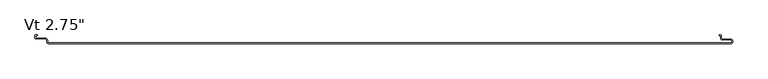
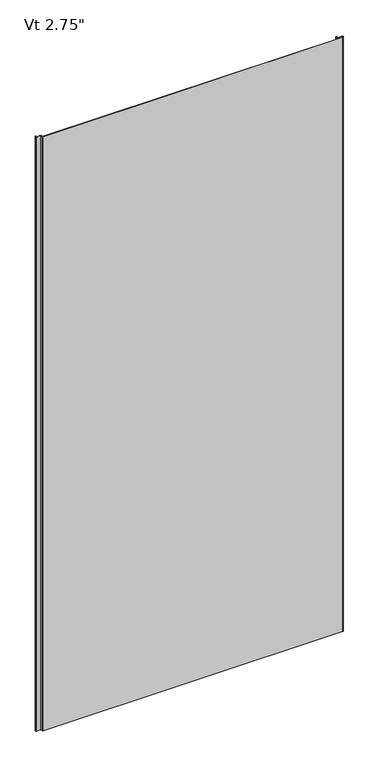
"""IFC4 building model written with IfcOpenShell, lengths in millimetres: plate geometry."""

import ifcopenshell
import ifcopenshell.guid

model = None  # the IFC model being written
_history = None  # IfcOwnerHistory: only IFC2X3 demands one
_inside = {}  # id of a spatial element -> (the spatial element, [elements in it])
_under = {}  # id of a project, library or spatial element -> (it, [spatial elements below it])
_declared = {}  # id of a project -> (the project, [libraries it declares])
_typed = {}  # id of a type object -> (the type object, [elements of that type])
_made_of = {}  # id of a material, layer set ... -> (it, [elements and type objects made of it])


def new_model(schema):
    """Start an empty IFC model of exactly this schema.

    Asked for "IFC4X3", IfcOpenShell would pick the latest addendum, in which some entities
    have other attributes; the version numbers below select the first issue.
    IFC2X3 requires an IfcOwnerHistory on every rooted entity: one is made here for all.
    """
    global model, _history
    if schema == "IFC4X3":
        model = ifcopenshell.file(schema_version=(4, 3, 0, 0))
    else:
        model = ifcopenshell.file(schema=schema)
    _inside.clear()
    _under.clear()
    _declared.clear()
    _typed.clear()
    _made_of.clear()
    _history = None
    if model.schema == "IFC2X3":
        org = make("IfcOrganization", Name="unknown")
        user = make(
            "IfcPersonAndOrganization",
            ThePerson=make("IfcPerson", FamilyName="unknown"),
            TheOrganization=org,
        )
        app = make(
            "IfcApplication",
            ApplicationDeveloper=org,
            Version="unknown",
            ApplicationFullName="unknown",
            ApplicationIdentifier="unknown",
        )
        _history = make(
            "IfcOwnerHistory",
            OwningUser=user,
            OwningApplication=app,
            ChangeAction="ADDED",
            CreationDate=0,
        )
    return model


def make(cls, **values):
    """One entity of the class cls with the attributes given. An attribute that is None is left unset."""
    return model.create_entity(
        cls, **{name: value for name, value in values.items() if value is not None}
    )


def rooted(cls, **values):
    """An entity with a GlobalId (a new one), such as an element, a storey or a relation."""
    return make(cls, GlobalId=ifcopenshell.guid.new(), OwnerHistory=_history, **values)


def si_unit(unit_type, name, prefix=None):
    """IfcSIUnit, for example si_unit("LENGTHUNIT", "METRE", prefix="MILLI")."""
    return make("IfcSIUnit", UnitType=unit_type, Prefix=prefix, Name=name)


def assignment(units):
    """IfcUnitAssignment: the units of a project."""
    return None if units is None else make("IfcUnitAssignment", Units=units)


def point(xyz):
    """IfcCartesianPoint."""
    return None if xyz is None else make("IfcCartesianPoint", Coordinates=xyz)


def direction(xyz):
    """IfcDirection."""
    return None if xyz is None else make("IfcDirection", DirectionRatios=xyz)


def frame(location, z_axis=None, x_axis=None):
    """IfcAxis2Placement3D, a coordinate frame: its origin and axes. An axis left out is left unset."""
    return make(
        "IfcAxis2Placement3D",
        Location=point(location),
        Axis=direction(z_axis),
        RefDirection=direction(x_axis),
    )


def origin():
    """The frame at (0, 0, 0) with its axes left unset."""
    return frame((0.0, 0.0, 0.0))


def place(relative_to, where):
    """IfcLocalPlacement: puts the frame where relative to a parent placement (None: the world)."""
    return make(
        "IfcLocalPlacement", PlacementRelTo=relative_to, RelativePlacement=where
    )


def context(
    kind, dimensions, precision=None, world=None, true_north=None, identifier=None
):
    """IfcGeometricRepresentationContext, for example the 3D "Model" context."""
    return make(
        "IfcGeometricRepresentationContext",
        ContextIdentifier=identifier,
        ContextType=kind,
        CoordinateSpaceDimension=dimensions,
        Precision=precision,
        WorldCoordinateSystem=world,
        TrueNorth=true_north,
    )


def project(units=None, contexts=None):
    """IfcProject with its units and contexts."""
    return rooted(
        "IfcProject",
        Name="project",
        RepresentationContexts=contexts,
        UnitsInContext=assignment(units),
    )


def spatial(cls, under=None, at=None, **own):
    """A site, building, storey or space (cls), placed at a placement, below another one or the project."""
    s = rooted(cls, ObjectPlacement=at, **own)
    if under is not None:
        _under.setdefault(under.id(), (under, []))[1].append(s)
    return s


def polyline(points):
    """IfcPolyline through the points."""
    return make("IfcPolyline", Points=[point(p) for p in points])


def circle_curve(where, radius):
    """IfcCircle in the frame where."""
    return make("IfcCircle", Position=where, Radius=radius)


def shape(context_of_items, identifier, shape_type, items):
    """IfcShapeRepresentation: the items that make up one representation, for example the "Body"."""
    return make(
        "IfcShapeRepresentation",
        ContextOfItems=context_of_items,
        RepresentationIdentifier=identifier,
        RepresentationType=shape_type,
        Items=items,
    )


def source(mapping_origin, context_of_items, identifier, shape_type, items):
    """IfcRepresentationMap: a shape defined once, which mapped items show again and again."""
    return make(
        "IfcRepresentationMap",
        MappingOrigin=mapping_origin,
        MappedRepresentation=shape(context_of_items, identifier, shape_type, items),
    )


def transform(
    local_origin,
    x_axis=None,
    y_axis=None,
    z_axis=None,
    scale=None,
    scale2=None,
    scale3=None,
    uniform=True,
):
    """IfcCartesianTransformationOperator3D, or its non-uniform kind. x_axis, y_axis, z_axis: its Axis1, 2, 3."""
    if uniform:
        return make(
            "IfcCartesianTransformationOperator3D",
            Axis1=direction(x_axis),
            Axis2=direction(y_axis),
            LocalOrigin=point(local_origin),
            Scale=scale,
            Axis3=direction(z_axis),
        )
    return make(
        "IfcCartesianTransformationOperator3DnonUniform",
        Axis1=direction(x_axis),
        Axis2=direction(y_axis),
        LocalOrigin=point(local_origin),
        Scale=scale,
        Axis3=direction(z_axis),
        Scale2=scale2,
        Scale3=scale3,
    )


def mapped(mapping_source, mapping_target):
    """IfcMappedItem: shows the shape of a source again, moved by a transform."""
    return make(
        "IfcMappedItem", MappingSource=mapping_source, MappingTarget=mapping_target
    )


def made_of(thing, what):
    """Note that an element or type object is made of a material, layer set ...; save() writes the relation."""
    if what is not None:
        _made_of.setdefault(what.id(), (what, []))[1].append(thing)
    return thing


def element(
    cls,
    number,
    at=None,
    inside=None,
    cuts=None,
    type_object=None,
    material=None,
    context=None,
    identifier="Body",
    shape_type=None,
    held_by="IfcProductDefinitionShape",
    body=None,
    shapes=None,
    **own,
):
    """One element of the class cls, such as IfcWall. Its Tag is "e" and its number.

    at: its placement. inside: the storey or other place that contains it. cuts: it is an
    opening in that element (IfcRelVoidsElement). A single representation is given by context,
    identifier, shape_type and body (its items); several are given by shapes. held_by: the class
    of the entity that holds the representations. save() writes the other relations.
    """
    e = rooted(cls, Tag="e%d" % number, ObjectPlacement=at, **own)
    if body is not None:
        shapes = [shape(context, identifier, shape_type, body)]
    if shapes is not None:
        e.Representation = make(held_by, Representations=shapes)
    if inside is not None:
        _inside.setdefault(inside.id(), (inside, []))[1].append(e)
    if cuts is not None:
        rooted(
            "IfcRelVoidsElement", RelatingBuildingElement=cuts, RelatedOpeningElement=e
        )
    if type_object is not None:
        _typed.setdefault(type_object.id(), (type_object, []))[1].append(e)
    return made_of(e, material)


def aggregate(whole, parts):
    """IfcRelAggregates: a whole, such as a stair, and the parts it consists of."""
    return rooted("IfcRelAggregates", RelatingObject=whole, RelatedObjects=parts)


def save(model, path):
    """Write the relations noted so far, then the file.

    IfcRelAggregates (storeys below a building ...), IfcRelContainedInSpatialStructure (elements
    in a storey), IfcRelDefinesByType, IfcRelAssociatesMaterial and IfcRelDeclares: one each for
    every whole, place, type object, material and project.
    """
    for whole, parts in _under.values():
        aggregate(whole, parts)
    for where, things in _inside.values():
        rooted(
            "IfcRelContainedInSpatialStructure",
            RelatedElements=things,
            RelatingStructure=where,
        )
    for kind, things in _typed.values():
        rooted("IfcRelDefinesByType", RelatedObjects=things, RelatingType=kind)
    for what, things in _made_of.values():
        rooted("IfcRelAssociatesMaterial", RelatedObjects=things, RelatingMaterial=what)
    for by, libraries in _declared.values():
        rooted("IfcRelDeclares", RelatingContext=by, RelatedDefinitions=libraries)
    model.write(path)


def plane_surface(at):
    """IfcPlane: the flat surface through the origin of the frame at, square to its z axis."""
    return make("IfcPlane", Position=at)


def cylinder_surface(at, radius):
    """IfcCylindricalSurface: all points at the distance radius from the z axis of the frame at."""
    return make("IfcCylindricalSurface", Position=at, Radius=radius)


def revolved_surface(curve, axis_point, axis_direction):
    """IfcSurfaceOfRevolution: the curve turned about the line through axis_point along axis_direction."""
    return make(
        "IfcSurfaceOfRevolution",
        SweptCurve=make("IfcArbitraryOpenProfileDef", ProfileType="CURVE", Curve=curve),
        AxisPosition=make("IfcAxis1Placement", Location=point(axis_point), Axis=direction(axis_direction)),
    )


def advanced_brep(points, edges, surfaces, faces):
    """IfcAdvancedBrep: a solid bounded by faces that lie on surfaces and meet in shared edges.

    An edge is (start, end): straight between two places in points (the first is 0);
    or (start, end, curve); or (start, end, curve, False) where it runs against its curve.
    A face is (place in surfaces, loops), or (place, loops, False) where it looks against
    its surface's normal. A loop lists edges by number (the first is 1), with a minus sign
    where the edge is run from its end to its start. The first loop is the outer one.
    """
    corners = [point(p) for p in points]
    vertices = [make("IfcVertexPoint", VertexGeometry=c) for c in corners]
    made = []
    for start, end, *more in edges:
        made.append(
            make(
                "IfcEdgeCurve",
                EdgeStart=vertices[start],
                EdgeEnd=vertices[end],
                EdgeGeometry=more[0] if more else make("IfcPolyline", Points=[corners[start], corners[end]]),
                SameSense=more[1] if len(more) > 1 else True,
            )
        )
    hull = []
    for where, loops, *sense in faces:
        bounds = []
        for j, loop in enumerate(loops):
            ring = [make("IfcOrientedEdge", EdgeElement=made[abs(k) - 1], Orientation=k > 0) for k in loop]
            bounds.append(
                make(
                    "IfcFaceOuterBound" if j == 0 else "IfcFaceBound",
                    Bound=make("IfcEdgeLoop", EdgeList=ring),
                    Orientation=True,
                )
            )
        hull.append(make("IfcAdvancedFace", Bounds=bounds, FaceSurface=surfaces[where], SameSense=sense[0] if sense else True))
    return make("IfcAdvancedBrep", Outer=make("IfcClosedShell", CfsFaces=hull))


def plate_f524b7f3(model_context):
    return source(origin(), model_context, "Body", "AdvancedBrep", [
        advanced_brep(
        [(-572.4123937, -66.9223811, 2400.0), (-572.4123937, -64.6308685, 2400.0), (-576.3897391, -60.6535232, 2400.0), (-591.9862514, -60.6535232, 2400.0), (-592.5741086, -60.065666, 2400.0), (-592.5741086, -56.9941346, 2400.0), (-591.9862374, -56.4062635, 2400.0), (-589.6312064, -56.4062635, 2400.0), (-589.6312064, -55.4062599, 2400.0), (-591.9862419, -55.4062599, 2400.0), (-593.5741185, -56.9941364, 2400.0), (-593.5741185, -60.0656851, 2400.0), (-591.9862419, -61.6535616, 2400.0), (-576.3898159, -61.6535616, 2400.0), (-573.4125474, -64.6308302, 2400.0), (-573.4125474, -66.922714, 2400.0), (-570.4352789, -69.8999825, 2400.0), (574.5475652, -69.9, 2400.0), (577.5248337, -66.9227315, 2400.0), (577.5248337, -65.8806329, 2400.0), (574.5475652, -62.9033644, 2400.0), (560.3591801, -62.9033644, 2400.0), (558.7713036, -61.3154878, 2400.0), (558.7713036, -56.9950697, 2400.0), (557.1304042, -55.4066023, 2400.0), (554.7857432, -55.4066023, 2400.0), (554.7857432, -56.4060472, 2400.0), (557.1628599, -56.4060472, 2400.0), (557.7713971, -56.9950842, 2400.0), (557.7713971, -61.3153166, 2400.0), (560.3590971, -63.9030166, 2400.0), (574.5482568, -63.9030166, 2400.0), (576.5262182, -65.880978, 2400.0), (576.5262182, -66.92341, 2400.0), (574.550337, -68.8992912, 2400.0), (-570.4354837, -68.8992912, 2400.0), (-572.4123937, -66.9223811, 0.0), (-570.4354837, -68.8992912, 0.0), (574.550337, -68.8992912, 0.0), (576.5262182, -66.92341, 0.0), (576.5262182, -65.880978, 0.0), (574.5482568, -63.9030166, 0.0), (560.3590971, -63.9030166, 0.0), (557.7713971, -61.3153166, 0.0), (557.7713971, -56.9950842, 0.0), (557.1628599, -56.4060472, 0.0), (554.7857432, -56.4060472, 0.0), (554.7857432, -55.4066023, 0.0), (557.1304042, -55.4066023, 0.0), (558.7713036, -56.9950697, 0.0), (558.7713036, -61.3154878, 0.0), (560.3591801, -62.9033644, 0.0), (574.5475652, -62.9033644, 0.0), (577.5248337, -65.8806329, 0.0), (577.5248337, -66.9227315, 0.0), (574.5475652, -69.9, 0.0), (-570.4352789, -69.9, 0.0), (-573.4125474, -66.922714, 0.0), (-573.4125474, -64.6308302, 0.0), (-576.3898159, -61.6535616, 0.0), (-591.9862419, -61.6535616, 0.0), (-593.5741185, -60.0656851, 0.0), (-593.5741185, -56.9941364, 0.0), (-591.9862419, -55.4062599, 0.0), (-589.6312064, -55.4062599, 0.0), (-589.6312064, -56.4062635, 0.0), (-591.9862374, -56.4062635, 0.0), (-592.5741086, -56.9941346, 0.0), (-592.5741086, -60.065666, 0.0), (-591.9862514, -60.6535232, 0.0), (-576.3897391, -60.6535232, 0.0), (-572.4123937, -64.6308685, 0.0)],
        [
            (0, 1),
            (1, 2, circle_curve(frame((-576.3897391, -64.6308685, 2400.0), z_axis=(0.0, 0.0, 1.0), x_axis=(-1.0, 0.0, 0.0)), 3.9773454)),
            (2, 3),
            (3, 4, circle_curve(frame((-591.9862514, -60.065666, 2400.0), z_axis=(0.0, 0.0, -1.0), x_axis=(-1.0, 0.0, 0.0)), 0.5878572)),
            (4, 5),
            (5, 6, circle_curve(frame((-591.9862374, -56.9941346, 2400.0), z_axis=(0.0, 0.0, -1.0), x_axis=(-1.0, 0.0, 0.0)), 0.5878711)),
            (6, 7),
            (7, 8),
            (8, 9),
            (9, 10, circle_curve(frame((-591.9862419, -56.9941364, 2400.0), z_axis=(0.0, 0.0, 1.0), x_axis=(-1.0, 0.0, 0.0)), 1.5878765)),
            (10, 11),
            (11, 12, circle_curve(frame((-591.9862419, -60.0656851, 2400.0), z_axis=(0.0, 0.0, 1.0), x_axis=(-1.0, 0.0, 0.0)), 1.5878765)),
            (12, 13),
            (13, 14, circle_curve(frame((-576.3898159, -64.6308302, 2400.0), z_axis=(0.0, 0.0, -1.0), x_axis=(-1.0, 0.0, 0.0)), 2.9772685)),
            (14, 15),
            (15, 16, circle_curve(frame((-570.4352789, -66.922714, 2400.0), z_axis=(0.0, 0.0, 1.0), x_axis=(-1.0, 0.0, 0.0)), 2.9772685)),
            (16, 17),
            (17, 18, circle_curve(frame((574.5475652, -66.9227315, 2400.0), z_axis=(0.0, 0.0, 1.0), x_axis=(-1.0, 0.0, 0.0)), 2.9772685)),
            (18, 19),
            (19, 20, circle_curve(frame((574.5475652, -65.8806329, 2400.0), z_axis=(0.0, 0.0, 1.0), x_axis=(-1.0, 0.0, 0.0)), 2.9772685)),
            (20, 21),
            (21, 22, circle_curve(frame((560.3591801, -61.3154878, 2400.0), z_axis=(0.0, 0.0, -1.0), x_axis=(-1.0, 0.0, 0.0)), 1.5878765)),
            (22, 23),
            (23, 24, circle_curve(frame((557.1819985, -56.9950697, 2400.0), z_axis=(0.0, 0.0, 1.0), x_axis=(-1.0, 0.0, 0.0)), 1.5893051)),
            (24, 25),
            (25, 26),
            (26, 27),
            (27, 28, circle_curve(frame((557.1820477, -56.9950842, 2400.0), z_axis=(0.0, 0.0, -1.0), x_axis=(-1.0, 0.0, 0.0)), 0.5893495)),
            (28, 29),
            (29, 30, circle_curve(frame((560.3590971, -61.3153166, 2400.0), z_axis=(0.0, 0.0, 1.0), x_axis=(-1.0, 0.0, 0.0)), 2.5877)),
            (30, 31),
            (31, 32, circle_curve(frame((574.5482568, -65.880978, 2400.0), z_axis=(0.0, 0.0, -1.0), x_axis=(-1.0, 0.0, 0.0)), 1.9779614)),
            (32, 33),
            (33, 34, circle_curve(frame((574.550337, -66.92341, 2400.0), z_axis=(0.0, 0.0, -1.0), x_axis=(-1.0, 0.0, 0.0)), 1.9758812)),
            (34, 35),
            (35, 0, circle_curve(frame((-570.4354837, -66.9223811, 2400.0), z_axis=(0.0, 0.0, -1.0), x_axis=(-1.0, 0.0, 0.0)), 1.9769101)),
            (36, 37, circle_curve(frame((-570.4354837, -66.9223811, 0.0), z_axis=(0.0, 0.0, 1.0), x_axis=(-1.0, 0.0, 0.0)), 1.9769101)),
            (37, 38),
            (38, 39, circle_curve(frame((574.550337, -66.92341, 0.0), z_axis=(0.0, 0.0, 1.0), x_axis=(-1.0, 0.0, 0.0)), 1.9758812)),
            (39, 40),
            (40, 41, circle_curve(frame((574.5482568, -65.880978, 0.0), z_axis=(0.0, 0.0, 1.0), x_axis=(-1.0, 0.0, 0.0)), 1.9779614)),
            (41, 42),
            (42, 43, circle_curve(frame((560.3590971, -61.3153166, 0.0), z_axis=(0.0, 0.0, -1.0), x_axis=(-1.0, 0.0, 0.0)), 2.5877)),
            (43, 44),
            (44, 45, circle_curve(frame((557.1820477, -56.9950842, 0.0), z_axis=(0.0, 0.0, 1.0), x_axis=(-1.0, 0.0, 0.0)), 0.5893495)),
            (45, 46),
            (46, 47),
            (47, 48),
            (48, 49, circle_curve(frame((557.1819985, -56.9950697, 0.0), z_axis=(0.0, 0.0, -1.0), x_axis=(-1.0, 0.0, 0.0)), 1.5893051)),
            (49, 50),
            (50, 51, circle_curve(frame((560.3591801, -61.3154878, 0.0), z_axis=(0.0, 0.0, 1.0), x_axis=(-1.0, 0.0, 0.0)), 1.5878765)),
            (51, 52),
            (52, 53, circle_curve(frame((574.5475652, -65.8806329, 0.0), z_axis=(0.0, 0.0, -1.0), x_axis=(-1.0, 0.0, 0.0)), 2.9772685)),
            (53, 54),
            (54, 55, circle_curve(frame((574.5475652, -66.9227315, 0.0), z_axis=(0.0, 0.0, -1.0), x_axis=(-1.0, 0.0, 0.0)), 2.9772685)),
            (55, 56),
            (56, 57, circle_curve(frame((-570.4352789, -66.922714, 0.0), z_axis=(0.0, 0.0, -1.0), x_axis=(-1.0, 0.0, 0.0)), 2.9772685)),
            (57, 58),
            (58, 59, circle_curve(frame((-576.3898159, -64.6308302, 0.0), z_axis=(0.0, 0.0, 1.0), x_axis=(-1.0, 0.0, 0.0)), 2.9772685)),
            (59, 60),
            (60, 61, circle_curve(frame((-591.9862419, -60.0656851, 0.0), z_axis=(0.0, 0.0, -1.0), x_axis=(-1.0, 0.0, 0.0)), 1.5878765)),
            (61, 62),
            (62, 63, circle_curve(frame((-591.9862419, -56.9941364, 0.0), z_axis=(0.0, 0.0, -1.0), x_axis=(-1.0, 0.0, 0.0)), 1.5878765)),
            (63, 64),
            (64, 65),
            (65, 66),
            (66, 67, circle_curve(frame((-591.9862374, -56.9941346, 0.0), z_axis=(0.0, 0.0, 1.0), x_axis=(-1.0, 0.0, 0.0)), 0.5878711)),
            (67, 68),
            (68, 69, circle_curve(frame((-591.9862514, -60.065666, 0.0), z_axis=(0.0, 0.0, 1.0), x_axis=(-1.0, 0.0, 0.0)), 0.5878572)),
            (69, 70),
            (70, 71, circle_curve(frame((-576.3897391, -64.6308685, 0.0), z_axis=(0.0, 0.0, -1.0), x_axis=(-1.0, 0.0, 0.0)), 3.9773454)),
            (71, 36),
            (23, 49),
            (48, 24),
            (22, 50),
            (21, 51),
            (20, 52),
            (19, 53),
            (17, 55),
            (54, 18),
            (32, 40),
            (39, 33),
            (38, 34),
            (16, 56),
            (37, 35),
            (36, 0),
            (71, 1),
            (70, 2),
            (69, 3),
            (4, 68),
            (67, 5),
            (66, 6),
            (65, 7),
            (64, 8),
            (63, 9),
            (62, 10),
            (61, 11),
            (60, 12),
            (59, 13),
            (58, 14),
            (57, 15),
            (31, 41),
            (30, 42),
            (29, 43),
            (28, 44),
            (27, 45),
            (26, 46),
            (25, 47),
        ],
        [
            plane_surface(frame((0.0, -69.9, 2400.0), z_axis=(0.0, 0.0, 1.0), x_axis=(0.0, -1.0, 0.0))),
            plane_surface(frame((0.0, -69.9, 0.0), z_axis=(0.0, 0.0, -1.0), x_axis=(0.0, -1.0, 0.0))),
            cylinder_surface(frame((557.1819985, -56.9950697, 2400.0), z_axis=(0.0, 0.0, 1.0), x_axis=(-1.0, 0.0, 0.0)), 1.5893051),
            plane_surface(frame((558.7713036, -56.9950697, 2400.0), z_axis=(1.0, 0.0, 0.0), x_axis=(0.0, 0.0, -1.0))),
            revolved_surface(polyline([(558.7713036, -61.3154878, 0.0), (558.7713036, -61.3154878, 2400.0)]), (560.3591801, -61.3154878, 2400.0), (0.0, 0.0, -1.0)),
            plane_surface(frame((560.3591801, -62.9033644, 2400.0), z_axis=(0.0, 1.0, 0.0), x_axis=(0.0, 0.0, -1.0))),
            cylinder_surface(frame((574.5475652, -65.8806329, 2400.0), z_axis=(0.0, 0.0, 1.0), x_axis=(-1.0, 0.0, 0.0)), 2.9772685),
            cylinder_surface(frame((574.5475652, -66.9227315, 2400.0), z_axis=(0.0, 0.0, 1.0), x_axis=(-1.0, 0.0, 0.0)), 2.9772685),
            plane_surface(frame((576.5262182, -66.92341, 2400.0), z_axis=(-1.0, 0.0, 0.0), x_axis=(0.0, 0.0, -1.0))),
            plane_surface(frame((577.5248337, -65.8806329, 2400.0), z_axis=(1.0, 0.0, 0.0), x_axis=(0.0, 0.0, -1.0))),
            revolved_surface(polyline([(572.5744558, -66.92341, 0.0), (572.5744558, -66.92341, 2400.0)]), (574.550337, -66.92341, 2400.0), (0.0, 0.0, -1.0)),
            plane_surface(frame((574.5475652, -69.9, 2400.0), z_axis=(0.0, -1.0, 0.0), x_axis=(0.0, 0.0, -1.0))),
            plane_surface(frame((-570.4354837, -68.8992912, 2400.0), z_axis=(0.0, 1.0, 0.0), x_axis=(0.0, 0.0, -1.0))),
            revolved_surface(polyline([(-572.4123938, -66.9223811, 0.0), (-572.4123938, -66.9223811, 2400.0)]), (-570.4354837, -66.9223811, 2400.0), (0.0, 0.0, -1.0)),
            plane_surface(frame((-572.4123937, -64.6308685, 2400.0), z_axis=(1.0, 0.0, 0.0), x_axis=(0.0, 0.0, -1.0))),
            cylinder_surface(frame((-576.3897391, -64.6308685, 2400.0), z_axis=(0.0, 0.0, 1.0), x_axis=(-1.0, 0.0, 0.0)), 3.9773454),
            plane_surface(frame((-591.9862514, -60.6535232, 2400.0), z_axis=(0.0, 1.0, 0.0), x_axis=(0.0, 0.0, -1.0))),
            plane_surface(frame((-592.5741086, -56.9941346, 2400.0), z_axis=(1.0, 0.0, 0.0), x_axis=(0.0, 0.0, -1.0))),
            revolved_surface(polyline([(-592.5741085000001, -56.9941346, 0.0), (-592.5741085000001, -56.9941346, 2400.0)]), (-591.9862374, -56.9941346, 2400.0), (0.0, 0.0, -1.0)),
            plane_surface(frame((-589.6312064, -56.4062635, 2400.0), z_axis=(0.0, -1.0, 0.0), x_axis=(0.0, 0.0, -1.0))),
            plane_surface(frame((-589.6312064, -55.4062599, 2400.0), z_axis=(1.0, 0.0, 0.0), x_axis=(0.0, 0.0, -1.0))),
            plane_surface(frame((-591.9862419, -55.4062599, 2400.0), z_axis=(0.0, 1.0, 0.0), x_axis=(0.0, 0.0, -1.0))),
            cylinder_surface(frame((-591.9862419, -56.9941364, 2400.0), z_axis=(0.0, 0.0, 1.0), x_axis=(-1.0, 0.0, 0.0)), 1.5878765),
            plane_surface(frame((-593.5741185, -60.0656851, 2400.0), z_axis=(-1.0, 0.0, 0.0), x_axis=(0.0, 0.0, -1.0))),
            cylinder_surface(frame((-591.9862419, -60.0656851, 2400.0), z_axis=(0.0, 0.0, 1.0), x_axis=(-1.0, 0.0, 0.0)), 1.5878765),
            plane_surface(frame((-576.3898159, -61.6535616, 2400.0), z_axis=(0.0, -1.0, 0.0), x_axis=(0.0, 0.0, -1.0))),
            revolved_surface(polyline([(-579.3670844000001, -64.6308302, 0.0), (-579.3670844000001, -64.6308302, 2400.0)]), (-576.3898159, -64.6308302, 2400.0), (0.0, 0.0, -1.0)),
            plane_surface(frame((-573.4125474, -66.922714, 2400.0), z_axis=(-1.0, 0.0, 0.0), x_axis=(0.0, 0.0, -1.0))),
            cylinder_surface(frame((-570.4352789, -66.922714, 2400.0), z_axis=(0.0, 0.0, 1.0), x_axis=(-1.0, 0.0, 0.0)), 2.9772685),
            revolved_surface(polyline([(-592.5741086, -60.065666, 0.0), (-592.5741086, -60.065666, 2400.0)]), (-591.9862514, -60.065666, 2400.0), (0.0, 0.0, -1.0)),
            revolved_surface(polyline([(572.5702954, -65.880978, 0.0), (572.5702954, -65.880978, 2400.0)]), (574.5482568, -65.880978, 2400.0), (0.0, 0.0, -1.0)),
            plane_surface(frame((574.5482568, -63.9030166, 2400.0), z_axis=(0.0, -1.0, 0.0), x_axis=(0.0, 0.0, -1.0))),
            cylinder_surface(frame((560.3590971, -61.3153166, 2400.0), z_axis=(0.0, 0.0, 1.0), x_axis=(-1.0, 0.0, 0.0)), 2.5877),
            plane_surface(frame((557.7713971, -61.3153166, 2400.0), z_axis=(-1.0, 0.0, 0.0), x_axis=(0.0, 0.0, -1.0))),
            revolved_surface(polyline([(556.5926982, -56.9950842, 0.0), (556.5926982, -56.9950842, 2400.0)]), (557.1820477, -56.9950842, 2400.0), (0.0, 0.0, -1.0)),
            plane_surface(frame((557.1628599, -56.4060472, 2400.0), z_axis=(0.0, -1.0, 0.0), x_axis=(0.0, 0.0, -1.0))),
            plane_surface(frame((554.7857432, -56.4060472, 2400.0), z_axis=(-1.0, 0.0, 0.0), x_axis=(0.0, 0.0, -1.0))),
            plane_surface(frame((554.7857432, -55.4066023, 2400.0), z_axis=(0.0, 1.0, 0.0), x_axis=(0.0, 0.0, -1.0))),
        ],
        [
            (0, [[1, 2, 3, 4, 5, 6, 7, 8, 9, 10, 11, 12, 13, 14, 15, 16, 17, 18, 19, 20, 21, 22, 23, 24, 25, 26, 27, 28, 29, 30, 31, 32, 33, 34, 35, 36]]),
            (1, [[37, 38, 39, 40, 41, 42, 43, 44, 45, 46, 47, 48, 49, 50, 51, 52, 53, 54, 55, 56, 57, 58, 59, 60, 61, 62, 63, 64, 65, 66, 67, 68, 69, 70, 71, 72]]),
            (2, [[73, -49, 74, -24]]),
            (3, [[75, -50, -73, -23]]),
            (4, [[76, -51, -75, -22]]),
            (5, [[77, -52, -76, -21]]),
            (6, [[78, -53, -77, -20]]),
            (7, [[79, -55, 80, -18]]),
            (8, [[81, -40, 82, -33]]),
            (9, [[-80, -54, -78, -19]]),
            (10, [[-82, -39, 83, -34]]),
            (11, [[84, -56, -79, -17]]),
            (12, [[-83, -38, 85, -35]]),
            (13, [[-85, -37, 86, -36]]),
            (14, [[-86, -72, 87, -1]]),
            (15, [[-87, -71, 88, -2]]),
            (16, [[-88, -70, 89, -3]]),
            (17, [[90, -68, 91, -5]]),
            (18, [[-91, -67, 92, -6]]),
            (19, [[-92, -66, 93, -7]]),
            (20, [[-93, -65, 94, -8]]),
            (21, [[-94, -64, 95, -9]]),
            (22, [[-95, -63, 96, -10]]),
            (23, [[-96, -62, 97, -11]]),
            (24, [[-97, -61, 98, -12]]),
            (25, [[-98, -60, 99, -13]]),
            (26, [[-99, -59, 100, -14]]),
            (27, [[-100, -58, 101, -15]]),
            (28, [[-101, -57, -84, -16]]),
            (29, [[-89, -69, -90, -4]]),
            (30, [[102, -41, -81, -32]]),
            (31, [[103, -42, -102, -31]]),
            (32, [[104, -43, -103, -30]]),
            (33, [[105, -44, -104, -29]]),
            (34, [[106, -45, -105, -28]]),
            (35, [[107, -46, -106, -27]]),
            (36, [[108, -47, -107, -26]]),
            (37, [[-74, -48, -108, -25]]),
        ],
    ),
    ])


if __name__ == "__main__":
    model = new_model("IFC4")
    model_context = context("Model", 3, world=origin())
    ifc_project = project(units=[si_unit("LENGTHUNIT", "METRE", prefix="MILLI")], contexts=[model_context])
    site = spatial("IfcSite", under=ifc_project)
    building = spatial("IfcBuilding", under=site)
    placement = place(None, origin())
    plate_shape = plate_f524b7f3(model_context)
    element("IfcPlate", 1, ObjectType="KIP-SLI-FLI-R19-CP-Vt-FL_SL : Vt 2.75\"", at=placement, inside=building, context=model_context, shape_type="MappedRepresentation", body=[
        mapped(plate_shape, transform((0.0, 0.0, 0.0), x_axis=(1.0, 0.0, 0.0), y_axis=(0.0, 1.0, 0.0), z_axis=(0.0, 0.0, 1.0))),
    ])
    save(model, "model.ifc")
